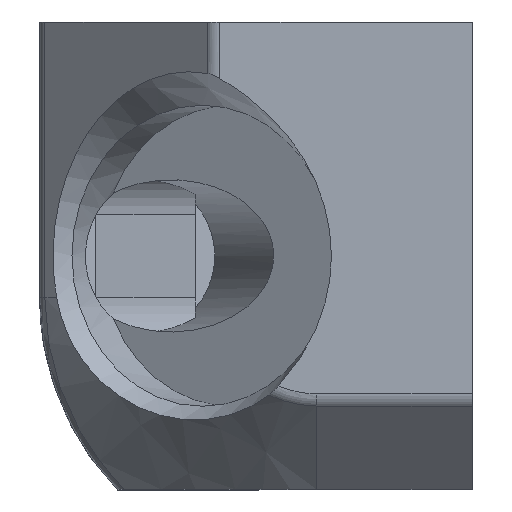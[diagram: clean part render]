
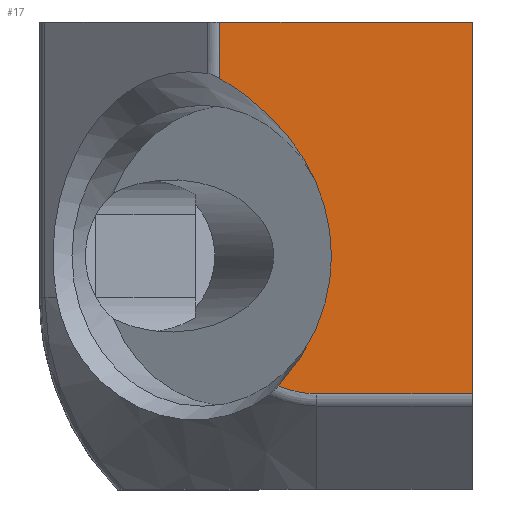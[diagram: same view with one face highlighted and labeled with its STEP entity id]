
A CAD part, top view. The second image highlights one B-rep face of the part: STEP entity #17.
In plain terms, the highlighted planar face has unit normal (0, 0, 1).
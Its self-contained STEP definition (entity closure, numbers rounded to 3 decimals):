
#17 = ADVANCED_FACE('',(#18),#33,.T.);
#18 = FACE_BOUND('',#19,.T.);
#19 = EDGE_LOOP('',(#20,#60,#88,#114,#140,#168,#206));
#20 = ORIENTED_EDGE('',*,*,#21,.F.);
#21 = EDGE_CURVE('',#22,#24,#26,.T.);
#22 = VERTEX_POINT('',#23);
#23 = CARTESIAN_POINT('',(-19.,-18.793,26.6));
#24 = VERTEX_POINT('',#25);
#25 = CARTESIAN_POINT('',(-20.099,-18.567,26.6));
#26 = SURFACE_CURVE('',#27,(#32,#48),.PCURVE_S1.);
#27 = CIRCLE('',#28,2.793);
#28 = AXIS2_PLACEMENT_3D('',#29,#30,#31);
#29 = CARTESIAN_POINT('',(-19.,-16.,26.6));
#30 = DIRECTION('',(-0.,-0.,-1.));
#31 = DIRECTION('',(0.,-1.,0.));
#32 = PCURVE('',#33,#38);
#33 = PLANE('',#34);
#34 = AXIS2_PLACEMENT_3D('',#35,#36,#37);
#35 = CARTESIAN_POINT('',(-22.3,-14.8,26.6));
#36 = DIRECTION('',(0.,0.,1.));
#37 = DIRECTION('',(1.,0.,-0.));
#38 = DEFINITIONAL_REPRESENTATION('',(#39),#47);
#39 = ( BOUNDED_CURVE() B_SPLINE_CURVE(2,(#40,#41,#42,#43,#44,#45,#46),
.UNSPECIFIED.,.T.,.F.) B_SPLINE_CURVE_WITH_KNOTS((1,2,2,2,2,1),(
    -2.094,0.,2.094,4.189,6.283,
8.378),.UNSPECIFIED.) CURVE() GEOMETRIC_REPRESENTATION_ITEM() 
RATIONAL_B_SPLINE_CURVE((1.,0.5,1.,0.5,1.,0.5,1.)) REPRESENTATION_ITEM(
  '') );
#40 = CARTESIAN_POINT('',(3.3,-3.993));
#41 = CARTESIAN_POINT('',(-1.537,-3.993));
#42 = CARTESIAN_POINT('',(0.881,0.196));
#43 = CARTESIAN_POINT('',(3.3,4.386));
#44 = CARTESIAN_POINT('',(5.719,0.196));
#45 = CARTESIAN_POINT('',(8.137,-3.993));
#46 = CARTESIAN_POINT('',(3.3,-3.993));
#47 = ( GEOMETRIC_REPRESENTATION_CONTEXT(2) 
PARAMETRIC_REPRESENTATION_CONTEXT() REPRESENTATION_CONTEXT('2D SPACE',''
  ) );
#48 = PCURVE('',#49,#54);
#49 = TOROIDAL_SURFACE('',#50,2.793,0.5);
#50 = AXIS2_PLACEMENT_3D('',#51,#52,#53);
#51 = CARTESIAN_POINT('',(-19.,-16.,26.1));
#52 = DIRECTION('',(0.,0.,1.));
#53 = DIRECTION('',(0.,-1.,0.));
#54 = DEFINITIONAL_REPRESENTATION('',(#55),#59);
#55 = LINE('',#56,#57);
#56 = CARTESIAN_POINT('',(6.283,1.571));
#57 = VECTOR('',#58,1.);
#58 = DIRECTION('',(-1.,0.));
#59 = ( GEOMETRIC_REPRESENTATION_CONTEXT(2) 
PARAMETRIC_REPRESENTATION_CONTEXT() REPRESENTATION_CONTEXT('2D SPACE',''
  ) );
#60 = ORIENTED_EDGE('',*,*,#61,.T.);
#61 = EDGE_CURVE('',#22,#62,#64,.T.);
#62 = VERTEX_POINT('',#63);
#63 = CARTESIAN_POINT('',(-14.5,-18.793,26.6));
#64 = SURFACE_CURVE('',#65,(#69,#76),.PCURVE_S1.);
#65 = LINE('',#66,#67);
#66 = CARTESIAN_POINT('',(-19.,-18.793,26.6));
#67 = VECTOR('',#68,1.);
#68 = DIRECTION('',(1.,0.,0.));
#69 = PCURVE('',#33,#70);
#70 = DEFINITIONAL_REPRESENTATION('',(#71),#75);
#71 = LINE('',#72,#73);
#72 = CARTESIAN_POINT('',(3.3,-3.993));
#73 = VECTOR('',#74,1.);
#74 = DIRECTION('',(1.,0.));
#75 = ( GEOMETRIC_REPRESENTATION_CONTEXT(2) 
PARAMETRIC_REPRESENTATION_CONTEXT() REPRESENTATION_CONTEXT('2D SPACE',''
  ) );
#76 = PCURVE('',#77,#82);
#77 = CYLINDRICAL_SURFACE('',#78,0.5);
#78 = AXIS2_PLACEMENT_3D('',#79,#80,#81);
#79 = CARTESIAN_POINT('',(19.,-18.793,26.1));
#80 = DIRECTION('',(-1.,-0.,-0.));
#81 = DIRECTION('',(0.,-0.707,0.707));
#82 = DEFINITIONAL_REPRESENTATION('',(#83),#87);
#83 = LINE('',#84,#85);
#84 = CARTESIAN_POINT('',(0.785,38.));
#85 = VECTOR('',#86,1.);
#86 = DIRECTION('',(-0.,-1.));
#87 = ( GEOMETRIC_REPRESENTATION_CONTEXT(2) 
PARAMETRIC_REPRESENTATION_CONTEXT() REPRESENTATION_CONTEXT('2D SPACE',''
  ) );
#88 = ORIENTED_EDGE('',*,*,#89,.T.);
#89 = EDGE_CURVE('',#62,#90,#92,.T.);
#90 = VERTEX_POINT('',#91);
#91 = CARTESIAN_POINT('',(-14.5,-8.05,26.6));
#92 = SURFACE_CURVE('',#93,(#97,#103),.PCURVE_S1.);
#93 = LINE('',#94,#95);
#94 = CARTESIAN_POINT('',(-14.5,-18.175,26.6));
#95 = VECTOR('',#96,1.);
#96 = DIRECTION('',(0.,1.,0.));
#97 = PCURVE('',#33,#98);
#98 = DEFINITIONAL_REPRESENTATION('',(#99),#102);
#99 = B_SPLINE_CURVE_WITH_KNOTS('',1,(#100,#101),.UNSPECIFIED.,.F.,.F.,(
    2,2),(-0.618,10.125),.PIECEWISE_BEZIER_KNOTS.);
#100 = CARTESIAN_POINT('',(7.8,-3.993));
#101 = CARTESIAN_POINT('',(7.8,6.75));
#102 = ( GEOMETRIC_REPRESENTATION_CONTEXT(2) 
PARAMETRIC_REPRESENTATION_CONTEXT() REPRESENTATION_CONTEXT('2D SPACE',''
  ) );
#103 = PCURVE('',#104,#109);
#104 = PLANE('',#105);
#105 = AXIS2_PLACEMENT_3D('',#106,#107,#108);
#106 = CARTESIAN_POINT('',(-14.5,-21.55,12.8));
#107 = DIRECTION('',(1.,0.,0.));
#108 = DIRECTION('',(0.,0.,1.));
#109 = DEFINITIONAL_REPRESENTATION('',(#110),#113);
#110 = B_SPLINE_CURVE_WITH_KNOTS('',1,(#111,#112),.UNSPECIFIED.,.F.,.F.,
  (2,2),(-0.618,10.125),.PIECEWISE_BEZIER_KNOTS.);
#111 = CARTESIAN_POINT('',(13.8,-2.757));
#112 = CARTESIAN_POINT('',(13.8,-13.5));
#113 = ( GEOMETRIC_REPRESENTATION_CONTEXT(2) 
PARAMETRIC_REPRESENTATION_CONTEXT() REPRESENTATION_CONTEXT('2D SPACE',''
  ) );
#114 = ORIENTED_EDGE('',*,*,#115,.T.);
#115 = EDGE_CURVE('',#90,#116,#118,.T.);
#116 = VERTEX_POINT('',#117);
#117 = CARTESIAN_POINT('',(-21.793,-8.05,26.6));
#118 = SURFACE_CURVE('',#119,(#123,#129),.PCURVE_S1.);
#119 = LINE('',#120,#121);
#120 = CARTESIAN_POINT('',(-25.15,-8.05,26.6));
#121 = VECTOR('',#122,1.);
#122 = DIRECTION('',(-1.,0.,0.));
#123 = PCURVE('',#33,#124);
#124 = DEFINITIONAL_REPRESENTATION('',(#125),#128);
#125 = B_SPLINE_CURVE_WITH_KNOTS('',1,(#126,#127),.UNSPECIFIED.,.F.,.F.,
  (2,2),(-10.65,-3.357),.PIECEWISE_BEZIER_KNOTS.);
#126 = CARTESIAN_POINT('',(7.8,6.75));
#127 = CARTESIAN_POINT('',(0.507,6.75));
#128 = ( GEOMETRIC_REPRESENTATION_CONTEXT(2) 
PARAMETRIC_REPRESENTATION_CONTEXT() REPRESENTATION_CONTEXT('2D SPACE',''
  ) );
#129 = PCURVE('',#130,#135);
#130 = PLANE('',#131);
#131 = AXIS2_PLACEMENT_3D('',#132,#133,#134);
#132 = CARTESIAN_POINT('',(-28.,-8.05,12.8));
#133 = DIRECTION('',(0.,1.,0.));
#134 = DIRECTION('',(0.,0.,1.));
#135 = DEFINITIONAL_REPRESENTATION('',(#136),#139);
#136 = B_SPLINE_CURVE_WITH_KNOTS('',1,(#137,#138),.UNSPECIFIED.,.F.,.F.,
  (2,2),(-10.65,-3.357),.PIECEWISE_BEZIER_KNOTS.);
#137 = CARTESIAN_POINT('',(13.8,13.5));
#138 = CARTESIAN_POINT('',(13.8,6.207));
#139 = ( GEOMETRIC_REPRESENTATION_CONTEXT(2) 
PARAMETRIC_REPRESENTATION_CONTEXT() REPRESENTATION_CONTEXT('2D SPACE',''
  ) );
#140 = ORIENTED_EDGE('',*,*,#141,.T.);
#141 = EDGE_CURVE('',#116,#142,#144,.T.);
#142 = VERTEX_POINT('',#143);
#143 = CARTESIAN_POINT('',(-21.793,-9.685,26.6));
#144 = SURFACE_CURVE('',#145,(#149,#156),.PCURVE_S1.);
#145 = LINE('',#146,#147);
#146 = CARTESIAN_POINT('',(-21.793,16.,26.6));
#147 = VECTOR('',#148,1.);
#148 = DIRECTION('',(0.,-1.,0.));
#149 = PCURVE('',#33,#150);
#150 = DEFINITIONAL_REPRESENTATION('',(#151),#155);
#151 = LINE('',#152,#153);
#152 = CARTESIAN_POINT('',(0.507,30.8));
#153 = VECTOR('',#154,1.);
#154 = DIRECTION('',(0.,-1.));
#155 = ( GEOMETRIC_REPRESENTATION_CONTEXT(2) 
PARAMETRIC_REPRESENTATION_CONTEXT() REPRESENTATION_CONTEXT('2D SPACE',''
  ) );
#156 = PCURVE('',#157,#162);
#157 = CYLINDRICAL_SURFACE('',#158,0.5);
#158 = AXIS2_PLACEMENT_3D('',#159,#160,#161);
#159 = CARTESIAN_POINT('',(-21.793,-16.,26.1));
#160 = DIRECTION('',(0.,1.,0.));
#161 = DIRECTION('',(-0.707,0.,0.707));
#162 = DEFINITIONAL_REPRESENTATION('',(#163),#167);
#163 = LINE('',#164,#165);
#164 = CARTESIAN_POINT('',(0.785,32.));
#165 = VECTOR('',#166,1.);
#166 = DIRECTION('',(-0.,-1.));
#167 = ( GEOMETRIC_REPRESENTATION_CONTEXT(2) 
PARAMETRIC_REPRESENTATION_CONTEXT() REPRESENTATION_CONTEXT('2D SPACE',''
  ) );
#168 = ORIENTED_EDGE('',*,*,#169,.F.);
#169 = EDGE_CURVE('',#170,#142,#172,.T.);
#170 = VERTEX_POINT('',#171);
#171 = CARTESIAN_POINT('',(-18.57,-14.8,26.6));
#172 = SURFACE_CURVE('',#173,(#178,#185),.PCURVE_S1.);
#173 = ELLIPSE('',#174,7.516,6.232);
#174 = AXIS2_PLACEMENT_3D('',#175,#176,#177);
#175 = CARTESIAN_POINT('',(-26.086,-14.8,26.6));
#176 = DIRECTION('',(0.,0.,1.));
#177 = DIRECTION('',(-1.,0.,0.));
#178 = PCURVE('',#33,#179);
#179 = DEFINITIONAL_REPRESENTATION('',(#180),#184);
#180 = ELLIPSE('',#181,7.516,6.232);
#181 = AXIS2_PLACEMENT_2D('',#182,#183);
#182 = CARTESIAN_POINT('',(-3.786,0.));
#183 = DIRECTION('',(-1.,0.));
#184 = ( GEOMETRIC_REPRESENTATION_CONTEXT(2) 
PARAMETRIC_REPRESENTATION_CONTEXT() REPRESENTATION_CONTEXT('2D SPACE',''
  ) );
#185 = PCURVE('',#186,#191);
#186 = CONICAL_SURFACE('',#187,4.35,0.464);
#187 = AXIS2_PLACEMENT_3D('',#188,#189,#190);
#188 = CARTESIAN_POINT('',(-22.3,-14.8,23.8));
#189 = DIRECTION('',(-0.5,0.,0.866));
#190 = DIRECTION('',(0.866,0.,0.5));
#191 = DEFINITIONAL_REPRESENTATION('',(#192),#205);
#192 = B_SPLINE_CURVE_WITH_KNOTS('',6,(#193,#194,#195,#196,#197,#198,
    #199,#200,#201,#202,#203,#204),.UNSPECIFIED.,.F.,.F.,(7,5,7),(
    3.142,3.817,4.104),.UNSPECIFIED.);
#193 = CARTESIAN_POINT('',(0.,0.56));
#194 = CARTESIAN_POINT('',(0.152,0.56));
#195 = CARTESIAN_POINT('',(0.303,0.617));
#196 = CARTESIAN_POINT('',(0.453,0.732));
#197 = CARTESIAN_POINT('',(0.601,0.901));
#198 = CARTESIAN_POINT('',(0.744,1.121));
#199 = CARTESIAN_POINT('',(0.943,1.498));
#200 = CARTESIAN_POINT('',(1.001,1.619));
#201 = CARTESIAN_POINT('',(1.058,1.747));
#202 = CARTESIAN_POINT('',(1.115,1.882));
#203 = CARTESIAN_POINT('',(1.171,2.024));
#204 = CARTESIAN_POINT('',(1.226,2.171));
#205 = ( GEOMETRIC_REPRESENTATION_CONTEXT(2) 
PARAMETRIC_REPRESENTATION_CONTEXT() REPRESENTATION_CONTEXT('2D SPACE',''
  ) );
#206 = ORIENTED_EDGE('',*,*,#207,.F.);
#207 = EDGE_CURVE('',#24,#170,#208,.T.);
#208 = SURFACE_CURVE('',#209,(#214,#221),.PCURVE_S1.);
#209 = ELLIPSE('',#210,7.516,6.232);
#210 = AXIS2_PLACEMENT_3D('',#211,#212,#213);
#211 = CARTESIAN_POINT('',(-26.086,-14.8,26.6));
#212 = DIRECTION('',(0.,0.,1.));
#213 = DIRECTION('',(-1.,0.,0.));
#214 = PCURVE('',#33,#215);
#215 = DEFINITIONAL_REPRESENTATION('',(#216),#220);
#216 = ELLIPSE('',#217,7.516,6.232);
#217 = AXIS2_PLACEMENT_2D('',#218,#219);
#218 = CARTESIAN_POINT('',(-3.786,0.));
#219 = DIRECTION('',(-1.,0.));
#220 = ( GEOMETRIC_REPRESENTATION_CONTEXT(2) 
PARAMETRIC_REPRESENTATION_CONTEXT() REPRESENTATION_CONTEXT('2D SPACE',''
  ) );
#221 = PCURVE('',#186,#222);
#222 = DEFINITIONAL_REPRESENTATION('',(#223),#231);
#223 = B_SPLINE_CURVE_WITH_KNOTS('',6,(#224,#225,#226,#227,#228,#229,
    #230),.UNSPECIFIED.,.F.,.F.,(7,7),(2.492,3.142),
  .PIECEWISE_BEZIER_KNOTS.);
#224 = CARTESIAN_POINT('',(5.433,1.325));
#225 = CARTESIAN_POINT('',(5.567,1.079));
#226 = CARTESIAN_POINT('',(5.706,0.875));
#227 = CARTESIAN_POINT('',(5.848,0.718));
#228 = CARTESIAN_POINT('',(5.992,0.613));
#229 = CARTESIAN_POINT('',(6.138,0.56));
#230 = CARTESIAN_POINT('',(6.283,0.56));
#231 = ( GEOMETRIC_REPRESENTATION_CONTEXT(2) 
PARAMETRIC_REPRESENTATION_CONTEXT() REPRESENTATION_CONTEXT('2D SPACE',''
  ) );
